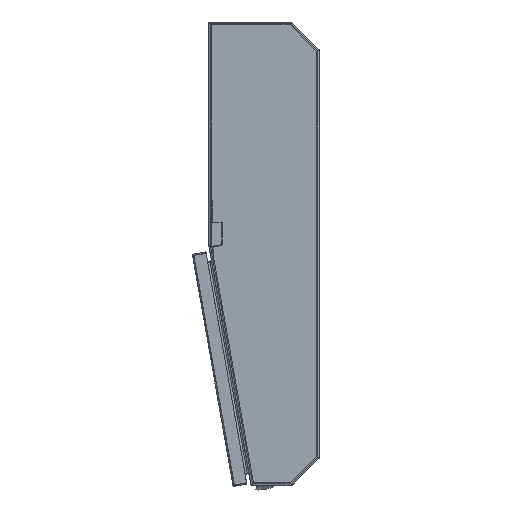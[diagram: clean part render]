
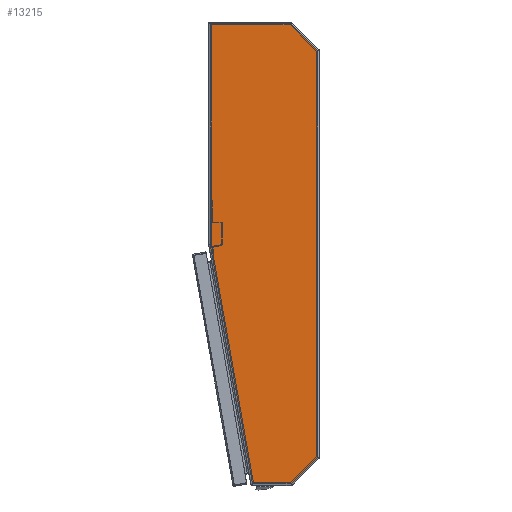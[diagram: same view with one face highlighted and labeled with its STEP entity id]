
A CAD part, left-side view. The second image highlights one B-rep face of the part: STEP entity #13215.
In plain terms, the highlighted planar face has unit normal (-1, 0, 0).
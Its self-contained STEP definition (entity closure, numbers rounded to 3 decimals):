
#195 = ORIENTED_EDGE ( 'NONE', *, *, #23215, .T. ) ;
#606 = VECTOR ( 'NONE', #26841, 1000. ) ;
#629 = VECTOR ( 'NONE', #3440, 1000. ) ;
#1652 = LINE ( 'NONE', #8302, #28613 ) ;
#2361 = CARTESIAN_POINT ( 'NONE',  ( -800., -97., -366.65 ) ) ;
#3224 = EDGE_CURVE ( 'NONE', #28516, #12115, #25352, .T. ) ;
#3301 = CARTESIAN_POINT ( 'NONE',  ( -800., 97., 414.892 ) ) ;
#3323 = DIRECTION ( 'NONE',  ( 1., 0., 0. ) ) ;
#3440 = DIRECTION ( 'NONE',  ( 0., 0., -1. ) ) ;
#3516 = CARTESIAN_POINT ( 'NONE',  ( -800., -231.825, -231.825 ) ) ;
#4149 = DIRECTION ( 'NONE',  ( 0., 0.707, 0.707 ) ) ;
#4899 = DIRECTION ( 'NONE',  ( 0., 1., 0. ) ) ;
#5191 = CARTESIAN_POINT ( 'NONE',  ( -800., 91.179, -16.077 ) ) ;
#5294 = VERTEX_POINT ( 'NONE', #20757 ) ;
#5963 = CARTESIAN_POINT ( 'NONE',  ( -800., -48.757, -414.892 ) ) ;
#6237 = VERTEX_POINT ( 'NONE', #3301 ) ;
#7403 = LINE ( 'NONE', #7545, #28568 ) ;
#7545 = CARTESIAN_POINT ( 'NONE',  ( -800., 0., 414.892 ) ) ;
#8302 = CARTESIAN_POINT ( 'NONE',  ( -800., -231.332, 231.332 ) ) ;
#8426 = CARTESIAN_POINT ( 'NONE',  ( -800., 97., 16.938 ) ) ;
#9671 = EDGE_CURVE ( 'NONE', #5294, #17163, #1652, .T. ) ;
#9749 = AXIS2_PLACEMENT_3D ( 'NONE', #20826, #3323, #12307 ) ;
#10533 = VECTOR ( 'NONE', #18224, 1000. ) ;
#10718 = DIRECTION ( 'NONE',  ( 0., -0.707, 0.707 ) ) ;
#11308 = CARTESIAN_POINT ( 'NONE',  ( -800., -97., 0. ) ) ;
#12036 = CARTESIAN_POINT ( 'NONE',  ( -800., -47.772, 414.892 ) ) ;
#12115 = VERTEX_POINT ( 'NONE', #19105 ) ;
#12159 = PLANE ( 'NONE',  #9749 ) ;
#12213 = ORIENTED_EDGE ( 'NONE', *, *, #9671, .T. ) ;
#12307 = DIRECTION ( 'NONE',  ( 0., 0., -1. ) ) ;
#12667 = VERTEX_POINT ( 'NONE', #2361 ) ;
#13215 = ADVANCED_FACE ( 'NONE', ( #25973 ), #12159, .F. ) ;
#13519 = LINE ( 'NONE', #11308, #10533 ) ;
#14121 = ORIENTED_EDGE ( 'NONE', *, *, #15842, .T. ) ;
#14183 = DIRECTION ( 'NONE',  ( 0., -0.174, -0.985 ) ) ;
#14698 = LINE ( 'NONE', #17604, #606 ) ;
#14869 = LINE ( 'NONE', #3516, #17455 ) ;
#15842 = EDGE_CURVE ( 'NONE', #26759, #12667, #14869, .T. ) ;
#17163 = VERTEX_POINT ( 'NONE', #12036 ) ;
#17181 = EDGE_LOOP ( 'NONE', ( #12213, #28233, #17858, #19165, #21837, #14121, #195 ) ) ;
#17455 = VECTOR ( 'NONE', #10718, 1000. ) ;
#17604 = CARTESIAN_POINT ( 'NONE',  ( -800., 0., -414.892 ) ) ;
#17858 = ORIENTED_EDGE ( 'NONE', *, *, #28454, .T. ) ;
#18224 = DIRECTION ( 'NONE',  ( 0., 0., 1. ) ) ;
#19105 = CARTESIAN_POINT ( 'NONE',  ( -800., 20.857, -414.892 ) ) ;
#19165 = ORIENTED_EDGE ( 'NONE', *, *, #3224, .T. ) ;
#20757 = CARTESIAN_POINT ( 'NONE',  ( -800., -97., 365.665 ) ) ;
#20826 = CARTESIAN_POINT ( 'NONE',  ( -800., 0., 0. ) ) ;
#21837 = ORIENTED_EDGE ( 'NONE', *, *, #27994, .T. ) ;
#23215 = EDGE_CURVE ( 'NONE', #12667, #5294, #13519, .T. ) ;
#24174 = EDGE_CURVE ( 'NONE', #17163, #6237, #7403, .T. ) ;
#25352 = LINE ( 'NONE', #5191, #26617 ) ;
#25359 = LINE ( 'NONE', #28007, #629 ) ;
#25973 = FACE_OUTER_BOUND ( 'NONE', #17181, .T. ) ;
#26617 = VECTOR ( 'NONE', #14183, 1000. ) ;
#26759 = VERTEX_POINT ( 'NONE', #5963 ) ;
#26841 = DIRECTION ( 'NONE',  ( 0., -1., 0. ) ) ;
#27994 = EDGE_CURVE ( 'NONE', #12115, #26759, #14698, .T. ) ;
#28007 = CARTESIAN_POINT ( 'NONE',  ( -800., 97., 0. ) ) ;
#28233 = ORIENTED_EDGE ( 'NONE', *, *, #24174, .T. ) ;
#28454 = EDGE_CURVE ( 'NONE', #6237, #28516, #25359, .T. ) ;
#28516 = VERTEX_POINT ( 'NONE', #8426 ) ;
#28568 = VECTOR ( 'NONE', #4899, 1000. ) ;
#28613 = VECTOR ( 'NONE', #4149, 1000. ) ;
